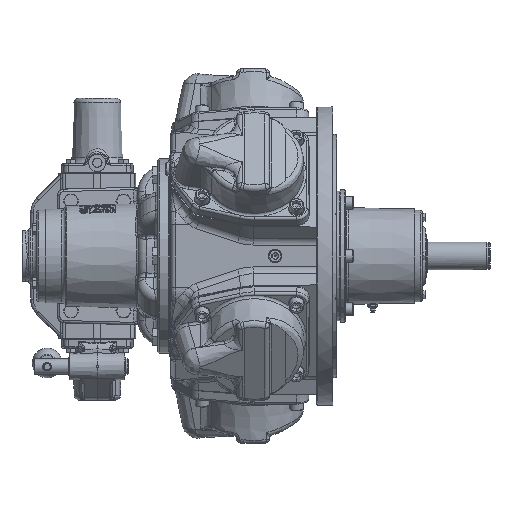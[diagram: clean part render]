
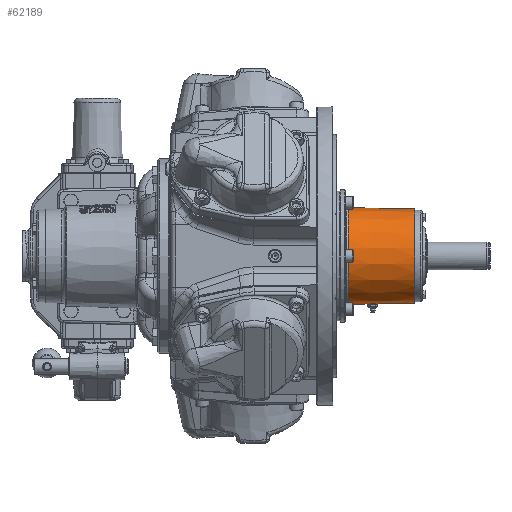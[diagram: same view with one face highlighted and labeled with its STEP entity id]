
A CAD part, front view. The second image highlights one B-rep face of the part: STEP entity #62189.
In plain terms, the highlighted conical face has half-angle 1 degrees and reference radius 60 mm.
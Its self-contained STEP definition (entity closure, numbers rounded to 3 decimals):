
#956 = DIRECTION ( 'NONE',  ( 0., 0., -1. ) ) ;
#6827 = CARTESIAN_POINT ( 'NONE',  ( 151.472, 4.695, -60.806 ) ) ;
#7762 = CARTESIAN_POINT ( 'NONE',  ( 146.473, -0.33, -61.074 ) ) ;
#8685 = CARTESIAN_POINT ( 'NONE',  ( 148.089, -3.552, -60.943 ) ) ;
#11275 = DIRECTION ( 'NONE',  ( 0., 0., -1. ) ) ;
#11490 = CARTESIAN_POINT ( 'NONE',  ( 153.564, -4.067, -60.815 ) ) ;
#12246 = CARTESIAN_POINT ( 'NONE',  ( 204.6, 0., 0. ) ) ;
#12427 = CARTESIAN_POINT ( 'NONE',  ( 154.925, 2.882, -60.859 ) ) ;
#13153 = DIRECTION ( 'NONE',  ( -1., 0., 0. ) ) ;
#15022 = VERTEX_POINT ( 'NONE', #182622 ) ;
#22666 = CARTESIAN_POINT ( 'NONE',  ( 147.087, 2.34, -61.019 ) ) ;
#23606 = CARTESIAN_POINT ( 'NONE',  ( 151.517, -4.693, -60.805 ) ) ;
#25432 = CARTESIAN_POINT ( 'NONE',  ( 155.436, -2.067, -60.883 ) ) ;
#33907 = CARTESIAN_POINT ( 'NONE',  ( 151.824, -4.661, -60.802 ) ) ;
#34704 = EDGE_LOOP ( 'NONE', ( #76864 ) ) ;
#35727 = CARTESIAN_POINT ( 'NONE',  ( 147.622, 3.088, -60.976 ) ) ;
#37589 = CARTESIAN_POINT ( 'NONE',  ( 149.988, -4.549, -60.843 ) ) ;
#40329 = CARTESIAN_POINT ( 'NONE',  ( 154.075, -3.726, -60.828 ) ) ;
#42176 = CARTESIAN_POINT ( 'NONE',  ( 155.67, -1.5, -60.896 ) ) ;
#42872 = FACE_OUTER_BOUND ( 'NONE', #34704, .T. ) ;
#43129 = DIRECTION ( 'NONE',  ( 0., 0., -1. ) ) ;
#47834 = AXIS2_PLACEMENT_3D ( 'NONE', #56133, #172471, #43129 ) ;
#47886 = CARTESIAN_POINT ( 'NONE',  ( 146.706, 1.494, -61.052 ) ) ;
#48804 = CARTESIAN_POINT ( 'NONE',  ( 154.507, 3.337, -60.842 ) ) ;
#50608 = CARTESIAN_POINT ( 'NONE',  ( 146.504, -0.635, -61.071 ) ) ;
#51511 = CARTESIAN_POINT ( 'NONE',  ( 149.689, -4.461, -60.855 ) ) ;
#54227 = CARTESIAN_POINT ( 'NONE',  ( 155.906, 0.325, -60.909 ) ) ;
#54609 = EDGE_CURVE ( 'NONE', #15022, #15022, #78530, .T. ) ;
#55148 = CARTESIAN_POINT ( 'NONE',  ( 155.908, -0.289, -60.909 ) ) ;
#56133 = CARTESIAN_POINT ( 'NONE',  ( 119.965, 0., 0. ) ) ;
#56252 = ORIENTED_EDGE ( 'NONE', *, *, #63107, .T. ) ;
#60092 = EDGE_CURVE ( 'NONE', #98804, #98804, #154762, .T. ) ;
#60544 = VERTEX_POINT ( 'NONE', #61467 ) ;
#61467 = CARTESIAN_POINT ( 'NONE',  ( 204.6, 0., -60.059 ) ) ;
#61827 = CARTESIAN_POINT ( 'NONE',  ( 152.723, -4.449, -60.802 ) ) ;
#62189 = ADVANCED_FACE ( 'NONE', ( #98727, #155491, #42872 ), #69716, .T. ) ;
#62740 = CARTESIAN_POINT ( 'NONE',  ( 150.546, 4.66, -60.825 ) ) ;
#63107 = EDGE_CURVE ( 'NONE', #60544, #60544, #111336, .T. ) ;
#63606 = CARTESIAN_POINT ( 'NONE',  ( 150.858, 4.692, -60.817 ) ) ;
#65445 = CARTESIAN_POINT ( 'NONE',  ( 148.333, -3.748, -60.927 ) ) ;
#68217 = CARTESIAN_POINT ( 'NONE',  ( 154.752, -3.092, -60.851 ) ) ;
#68921 = DIRECTION ( 'NONE',  ( -1., 0., 0. ) ) ;
#69130 = CARTESIAN_POINT ( 'NONE',  ( 155.29, -2.341, -60.876 ) ) ;
#69716 = CONICAL_SURFACE ( 'NONE', #132218, 60., 0.017 ) ;
#70069 = CARTESIAN_POINT ( 'NONE',  ( 155.419, 2.101, -60.882 ) ) ;
#76677 = CARTESIAN_POINT ( 'NONE',  ( 152.684, 4.462, -60.802 ) ) ;
#76864 = ORIENTED_EDGE ( 'NONE', *, *, #60092, .F. ) ;
#78482 = CARTESIAN_POINT ( 'NONE',  ( 149.944, 4.538, -60.844 ) ) ;
#78530 = B_SPLINE_CURVE_WITH_KNOTS ( 'NONE', 3,
 ( #48804, #134433, #163207, #91621, #149265, #76677, #133514, #105581, #6827, #63606, #62740, #78482, #120456, #162266, #177222, #175362, #178144, #35727, #92535, #22666, #135335, #47886, #136249, #137133, #104667, #7762, #50608, #107416, #164122, #165040, #122287, #79416, #93452, #8685, #65445, #179058, #161353, #51511, #37589, #94370, #151110, #23606, #33907, #80317, #61827, #90698, #11490, #40329, #98925, #68217, #95292, #69130, #25432, #42176, #82177, #152932, #55148, #54227, #110159, #138999, #125048, #70069, #111087, #12427, #167800, #109269 ),
 .UNSPECIFIED., .T., .F.,
 ( 4, 2, 2, 2, 2, 2, 2, 2, 2, 2, 2, 2, 2, 2, 2, 2, 2, 2, 2, 2, 2, 2, 2, 2, 2, 2, 2, 2, 2, 2, 2, 2, 4 ),
 ( 0., 0.001, 0.002, 0.003, 0.004, 0.005, 0.006, 0.006, 0.007, 0.008, 0.009, 0.01, 0.011, 0.012, 0.013, 0.014, 0.015, 0.016, 0.017, 0.018, 0.019, 0.019, 0.02, 0.021, 0.022, 0.023, 0.024, 0.025, 0.026, 0.027, 0.028, 0.029, 0.03 ),
 .UNSPECIFIED. ) ;
#79416 = CARTESIAN_POINT ( 'NONE',  ( 147.456, -2.886, -60.989 ) ) ;
#80317 = CARTESIAN_POINT ( 'NONE',  ( 152.425, -4.54, -60.801 ) ) ;
#82177 = CARTESIAN_POINT ( 'NONE',  ( 155.76, -1.203, -60.901 ) ) ;
#90698 = CARTESIAN_POINT ( 'NONE',  ( 153.294, -4.212, -60.809 ) ) ;
#91621 = CARTESIAN_POINT ( 'NONE',  ( 153.526, 4.089, -60.814 ) ) ;
#92535 = CARTESIAN_POINT ( 'NONE',  ( 147.427, 2.85, -60.991 ) ) ;
#93452 = CARTESIAN_POINT ( 'NONE',  ( 147.652, -3.121, -60.974 ) ) ;
#94370 = CARTESIAN_POINT ( 'NONE',  ( 150.59, -4.666, -60.823 ) ) ;
#95292 = CARTESIAN_POINT ( 'NONE',  ( 154.946, -2.855, -60.86 ) ) ;
#98727 = FACE_BOUND ( 'NONE', #131855, .T. ) ;
#98804 = VERTEX_POINT ( 'NONE', #101595 ) ;
#98925 = CARTESIAN_POINT ( 'NONE',  ( 154.317, -3.527, -60.835 ) ) ;
#101595 = CARTESIAN_POINT ( 'NONE',  ( 119.965, 0., -61.537 ) ) ;
#104667 = CARTESIAN_POINT ( 'NONE',  ( 146.47, 0.284, -61.074 ) ) ;
#105581 = CARTESIAN_POINT ( 'NONE',  ( 151.778, 4.667, -60.803 ) ) ;
#107416 = CARTESIAN_POINT ( 'NONE',  ( 146.629, -1.242, -61.059 ) ) ;
#109269 = CARTESIAN_POINT ( 'NONE',  ( 154.507, 3.337, -60.842 ) ) ;
#110159 = CARTESIAN_POINT ( 'NONE',  ( 155.874, 0.637, -60.907 ) ) ;
#111087 = CARTESIAN_POINT ( 'NONE',  ( 155.27, 2.375, -60.875 ) ) ;
#111336 = CIRCLE ( 'NONE', #167725, 60.059 ) ;
#120456 = CARTESIAN_POINT ( 'NONE',  ( 149.651, 4.448, -60.856 ) ) ;
#122287 = CARTESIAN_POINT ( 'NONE',  ( 147.108, -2.375, -61.017 ) ) ;
#125048 = CARTESIAN_POINT ( 'NONE',  ( 155.659, 1.532, -60.895 ) ) ;
#126479 = ORIENTED_EDGE ( 'NONE', *, *, #54609, .T. ) ;
#131855 = EDGE_LOOP ( 'NONE', ( #126479 ) ) ;
#132218 = AXIS2_PLACEMENT_3D ( 'NONE', #167585, #68921, #11275 ) ;
#133514 = CARTESIAN_POINT ( 'NONE',  ( 152.386, 4.551, -60.801 ) ) ;
#134433 = CARTESIAN_POINT ( 'NONE',  ( 154.286, 3.555, -60.834 ) ) ;
#135335 = CARTESIAN_POINT ( 'NONE',  ( 146.94, 2.064, -61.032 ) ) ;
#136249 = CARTESIAN_POINT ( 'NONE',  ( 146.617, 1.2, -61.06 ) ) ;
#137133 = CARTESIAN_POINT ( 'NONE',  ( 146.499, 0.596, -61.071 ) ) ;
#138999 = CARTESIAN_POINT ( 'NONE',  ( 155.75, 1.239, -60.9 ) ) ;
#149265 = CARTESIAN_POINT ( 'NONE',  ( 153.252, 4.232, -60.809 ) ) ;
#151110 = CARTESIAN_POINT ( 'NONE',  ( 150.896, -4.695, -60.816 ) ) ;
#152932 = CARTESIAN_POINT ( 'NONE',  ( 155.879, -0.595, -60.908 ) ) ;
#154762 = CIRCLE ( 'NONE', #47834, 61.537 ) ;
#155491 = FACE_BOUND ( 'NONE', #171514, .T. ) ;
#161353 = CARTESIAN_POINT ( 'NONE',  ( 149.118, -4.228, -60.881 ) ) ;
#162266 = CARTESIAN_POINT ( 'NONE',  ( 149.082, 4.211, -60.883 ) ) ;
#163207 = CARTESIAN_POINT ( 'NONE',  ( 154.045, 3.749, -60.827 ) ) ;
#164122 = CARTESIAN_POINT ( 'NONE',  ( 146.721, -1.538, -61.051 ) ) ;
#165040 = CARTESIAN_POINT ( 'NONE',  ( 146.96, -2.102, -61.03 ) ) ;
#167585 = CARTESIAN_POINT ( 'NONE',  ( 208., 0., 0. ) ) ;
#167725 = AXIS2_PLACEMENT_3D ( 'NONE', #12246, #13153, #956 ) ;
#167800 = CARTESIAN_POINT ( 'NONE',  ( 154.729, 3.118, -60.85 ) ) ;
#171514 = EDGE_LOOP ( 'NONE', ( #56252 ) ) ;
#172471 = DIRECTION ( 'NONE',  ( -1., 0., 0. ) ) ;
#175362 = CARTESIAN_POINT ( 'NONE',  ( 148.298, 3.722, -60.929 ) ) ;
#177222 = CARTESIAN_POINT ( 'NONE',  ( 148.807, 4.063, -60.898 ) ) ;
#178144 = CARTESIAN_POINT ( 'NONE',  ( 148.061, 3.527, -60.945 ) ) ;
#179058 = CARTESIAN_POINT ( 'NONE',  ( 148.847, -4.086, -60.896 ) ) ;
#182622 = CARTESIAN_POINT ( 'NONE',  ( 154.507, 3.337, -60.842 ) ) ;
